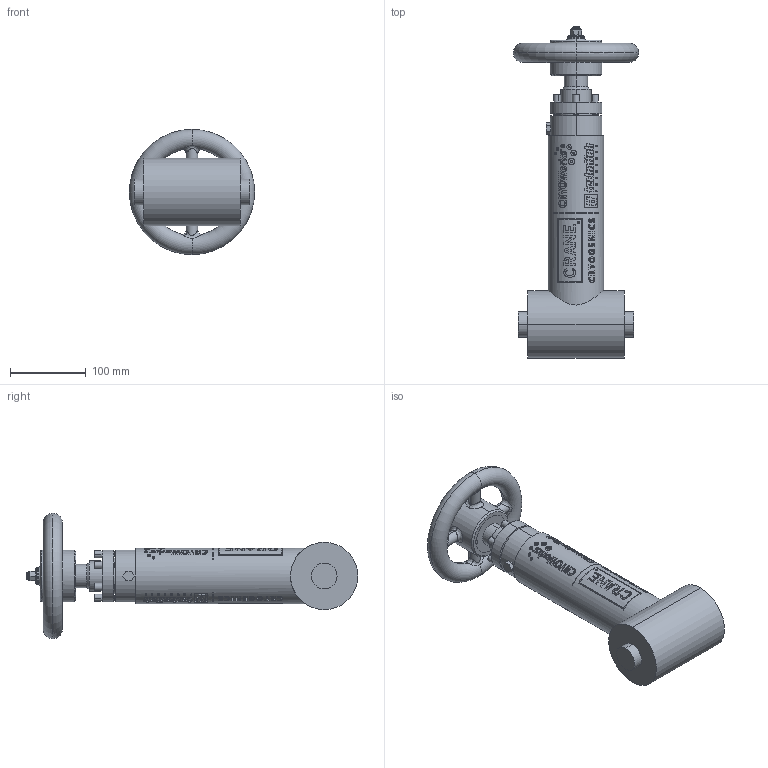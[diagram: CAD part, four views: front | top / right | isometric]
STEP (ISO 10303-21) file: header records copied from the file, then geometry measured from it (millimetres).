
FILE_DESCRIPTION (( 'STEP AP203' ), '1' );
FILE_NAME ('1IN T-PATTERN MANUAL CRANE BELLOWS SEAL VALVE.step', '2025-12-17T20:06:10', ( '' ), ( '' ), 'SwSTEP 2.0', 'SolidWorks 2023', '' );
FILE_SCHEMA (( 'CONFIG_CONTROL_DESIGN' ));
Length unit declared in the file: inch
Products named in the file (1): 1IN T-PATTERN MANUAL CRANE BELLOWS SEAL VALVE
Bounding box: 165.1 x 437.64 x 165.1 mm (x, y, z)
Volume: 2284307.7 mm3; surface area: 187869 mm2
Topology: 1 solids, 1 shells, 1330 faces, 3431 edges, 2282 vertices
Faces by surface type: plane 774, cylinder 379, bspline 143, cone 24, torus 10
Full cylindrical faces by diameter (mm): 1.195 x2, 1.309 x2, 1.422 x2, 1.631 x2, 1.842 x2, 2.373 x2, 2.456 x2, 2.727 x2, 2.906 x2, 3.046 x2, 3.207 x2, 3.658 x2, 4.941 x2, 6.104 x2, 7.386 x2, 8.599 x2, 73.025 x1
Entity records: 84918 total; most frequent: CARTESIAN_POINT 55575, ORIENTED_EDGE 6746, DIRECTION 5005, EDGE_CURVE 3373, VERTEX_POINT 2276, AXIS2_PLACEMENT_3D 1683, LINE 1639, VECTOR 1639
